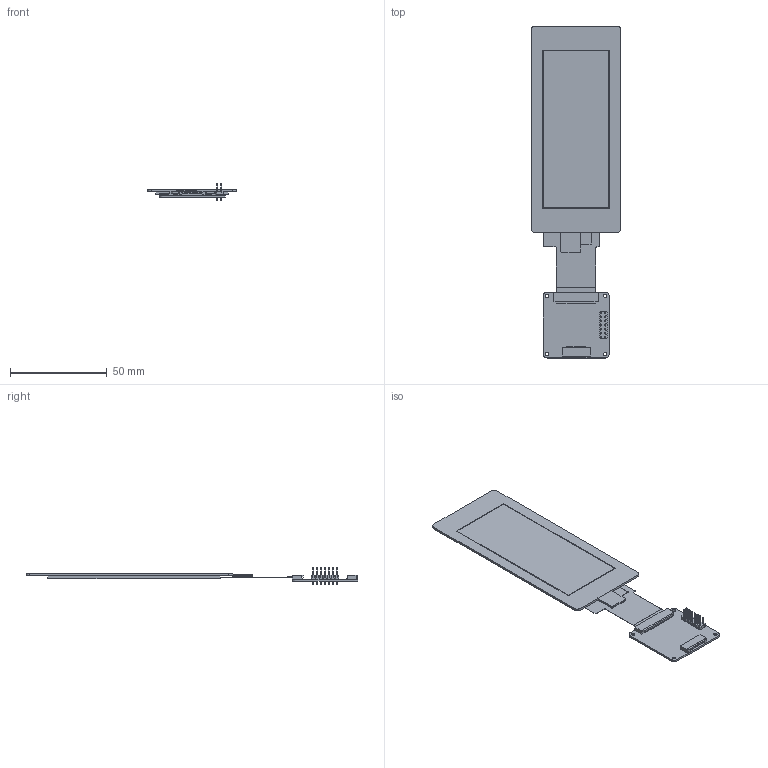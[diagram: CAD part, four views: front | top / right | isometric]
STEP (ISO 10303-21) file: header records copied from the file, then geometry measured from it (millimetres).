
FILE_DESCRIPTION((''),'2;1');
FILE_NAME('TS035WVV02CP-B1683A-V00-241209','2024-12-09T14:14:52',('Shaozi'),(''),'CREO PARAMETRIC BY PTC INC, 2024063','CREO PARAMETRIC BY PTC INC, 2024063','');
FILE_SCHEMA(('AUTOMOTIVE_DESIGN { 1 0 10303 214 1 1 1 1 }'));
Length unit declared in the file: millimetre
Products named in the file (1): TS035WVV02CP-B1683A-V00-241209
Bounding box: 46 x 171.17 x 8.8 mm (x, y, z)
Surface area: 23189.1 mm2 (no closed solid volume)
Topology: 0 solids, 11 shells, 373 faces, 1104 edges, 756 vertices
Faces by surface type: plane 330, cylinder 24, extrusion 19
Entity records: 14477 total; most frequent: CARTESIAN_POINT 2532, ORIENTED_EDGE 2026, DIRECTION 1830, EDGE_CURVE 1104, VECTOR 1016, LINE 997, VERTEX_POINT 756, EDGE_LOOP 412
